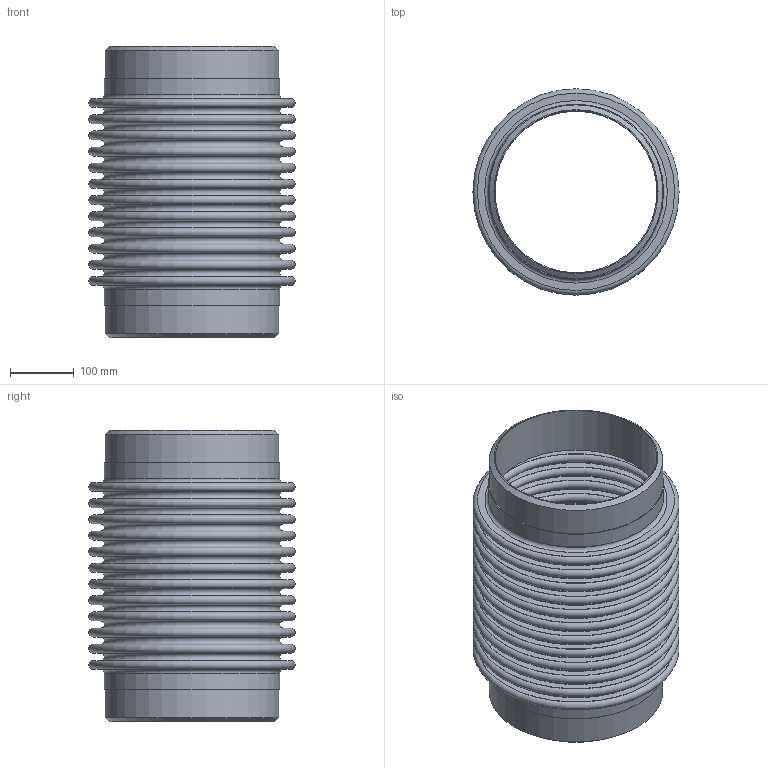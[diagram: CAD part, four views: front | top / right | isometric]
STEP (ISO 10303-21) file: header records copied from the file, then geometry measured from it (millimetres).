
FILE_DESCRIPTION(/* description */ ('EXPANSION JOINT,SINGLE, WELD ENDS,4 INCH NOMINAL'),/* implementation_level */ '2;1');
FILE_NAME(/* name */ 'ASSEMBLY US-10-12-150L.stp',/* time_stamp */ '2026-07-28T16:37:19-05:00',/* author */ ('jorgef'),/* organization */ (''),/* preprocessor_version */ 'ST-DEVELOPER v20.1',/* originating_system */ 'Autodesk Inventor 2026',/* authorisation */ '');
FILE_SCHEMA (('AUTOMOTIVE_DESIGN { 1 0 10303 214 3 1 1 }'));
Length unit declared in the file: inch
Products named in the file (3): ASSEMBLY  US-10-12-150L; STOCK BELLOW - US-10-12-150L; PIPE- US-10-12-150L
Assembly tree (3 placements, depth 2):
  ASSEMBLY  US-10-12-150L
    STOCK BELLOW - US-10-12-150L
    PIPE- US-10-12-150L  x2
Bounding box: 323.85 x 323.85 x 457.2 mm (x, y, z)
Volume: 2048372.2 mm3; surface area: 1784892 mm2
Topology: 5 solids, 5 shells, 118 faces, 180 edges, 121 vertices
Faces by surface type: plane 58, torus 50, cylinder 8, cone 2
Full cylindrical faces by diameter (mm): 254.508 x2, 273.05 x4, 275.488 x2
Entity records: 2769 total; most frequent: DIRECTION 573, CARTESIAN_POINT 405, ORIENTED_EDGE 342, AXIS2_PLACEMENT_3D 283, EDGE_CURVE 171, EDGE_LOOP 169, CIRCLE 164, VERTEX_POINT 114
